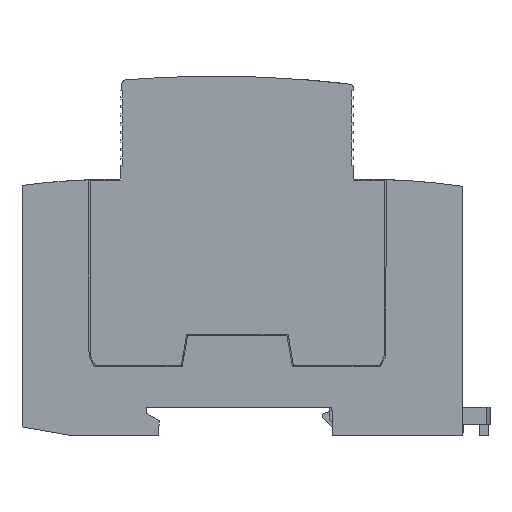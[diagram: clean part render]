
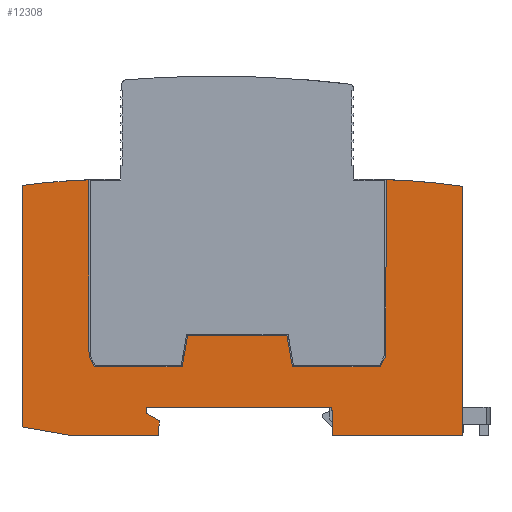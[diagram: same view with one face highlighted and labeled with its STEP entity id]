
A CAD part, left-side view. The second image highlights one B-rep face of the part: STEP entity #12308.
In plain terms, the highlighted planar face has unit normal (-1, 0, 0).
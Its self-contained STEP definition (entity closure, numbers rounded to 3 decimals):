
#26=DIRECTION('',(0.,-0.174,-0.985));
#27=VECTOR('',#26,6.101);
#28=CARTESIAN_POINT('',(0.004,39.063,19.312));
#29=LINE('',#28,#27);
#30=DIRECTION('',(0.,-0.447,0.894));
#31=VECTOR('',#30,2.26);
#32=CARTESIAN_POINT('',(0.004,21.104,13.304));
#33=LINE('',#32,#31);
#34=DIRECTION('',(0.,-0.005,1.));
#35=VECTOR('',#34,33.929);
#36=CARTESIAN_POINT('',(0.004,20.093,15.325));
#37=LINE('',#36,#35);
#38=CARTESIAN_POINT('',(0.004,24.104,-85.796));
#39=DIRECTION('',(1.,0.,0.));
#40=DIRECTION('',(0.,-0.031,1.));
#41=AXIS2_PLACEMENT_3D('',#38,#39,#40);
#43=DIRECTION('',(0.,0.,-1.));
#44=VECTOR('',#43,47.987);
#45=CARTESIAN_POINT('',(0.004,5.204,47.991));
#46=LINE('',#45,#44);
#47=DIRECTION('',(0.,1.,0.));
#48=VECTOR('',#47,25.056);
#49=CARTESIAN_POINT('',(0.004,5.204,0.004));
#50=LINE('',#49,#48);
#51=DIRECTION('',(0.,0.026,1.));
#52=VECTOR('',#51,5.502);
#53=CARTESIAN_POINT('',(0.004,30.26,0.004));
#54=LINE('',#53,#52);
#55=DIRECTION('',(0.,0.026,-1.));
#56=VECTOR('',#55,1.182);
#57=CARTESIAN_POINT('',(0.004,66.104,5.504));
#58=LINE('',#57,#56);
#59=DIRECTION('',(0.,-0.866,-0.5));
#60=VECTOR('',#59,2.889);
#61=CARTESIAN_POINT('',(0.004,66.135,4.322));
#62=LINE('',#61,#60);
#63=DIRECTION('',(0.,0.026,-1.));
#64=VECTOR('',#63,2.875);
#65=CARTESIAN_POINT('',(0.004,63.633,2.878));
#66=LINE('',#65,#64);
#67=DIRECTION('',(0.,0.985,0.174));
#68=VECTOR('',#67,9.79);
#69=CARTESIAN_POINT('',(0.004,80.363,0.004));
#70=LINE('',#69,#68);
#71=DIRECTION('',(0.,0.,1.));
#72=VECTOR('',#71,46.455);
#73=CARTESIAN_POINT('',(0.004,90.004,1.704));
#74=LINE('',#73,#72);
#75=CARTESIAN_POINT('',(0.004,72.404,-85.796));
#76=DIRECTION('',(1.,0.,0.));
#77=DIRECTION('',(0.,0.13,0.991));
#78=AXIS2_PLACEMENT_3D('',#75,#76,#77);
#80=DIRECTION('',(0.,-0.005,-1.));
#81=VECTOR('',#80,33.897);
#82=CARTESIAN_POINT('',(0.004,77.292,49.222));
#83=LINE('',#82,#81);
#84=DIRECTION('',(0.,-0.447,-0.894));
#85=VECTOR('',#84,2.26);
#86=CARTESIAN_POINT('',(0.004,77.115,15.325));
#87=LINE('',#86,#85);
#88=DIRECTION('',(0.,-0.174,0.985));
#89=VECTOR('',#88,6.101);
#90=CARTESIAN_POINT('',(0.004,59.204,13.304));
#91=LINE('',#90,#89);
#92=DIRECTION('',(0.,1.,0.));
#93=VECTOR('',#92,19.081);
#94=CARTESIAN_POINT('',(0.004,39.063,19.312));
#95=LINE('',#94,#93);
#108=DIRECTION('',(0.,1.,0.));
#109=VECTOR('',#108,16.9);
#110=CARTESIAN_POINT('',(0.004,59.204,13.304));
#111=LINE('',#110,#109);
#6063=DIRECTION('',(0.,-1.,0.));
#6064=VECTOR('',#6063,16.655);
#6065=CARTESIAN_POINT('',(0.004,80.363,
0.004));
#6066=LINE('',#6065,#6064);
#6179=DIRECTION('',(0.,-1.,0.));
#6180=VECTOR('',#6179,35.7);
#6181=CARTESIAN_POINT('',(0.004,66.104,5.504));
#6182=LINE('',#6181,#6180);
#7533=DIRECTION('',(0.,1.,0.));
#7534=VECTOR('',#7533,16.9);
#7535=CARTESIAN_POINT('',(0.004,21.104,13.304));
#7536=LINE('',#7535,#7534);
#9286=CARTESIAN_POINT('',(0.004,39.063,19.312));
#9287=CARTESIAN_POINT('',(0.004,58.145,19.312));
#9288=VERTEX_POINT('',#9286);
#9289=VERTEX_POINT('',#9287);
#9290=CARTESIAN_POINT('',(0.004,38.004,13.304));
#9291=VERTEX_POINT('',#9290);
#9292=CARTESIAN_POINT('',(0.004,21.104,13.304));
#9293=VERTEX_POINT('',#9292);
#9294=CARTESIAN_POINT('',(0.004,20.093,15.325));
#9295=VERTEX_POINT('',#9294);
#9296=CARTESIAN_POINT('',(0.004,19.916,49.254));
#9297=VERTEX_POINT('',#9296);
#9298=CARTESIAN_POINT('',(0.004,5.204,47.991));
#9299=VERTEX_POINT('',#9298);
#9300=CARTESIAN_POINT('',(0.004,5.204,
0.004));
#9301=VERTEX_POINT('',#9300);
#9302=CARTESIAN_POINT('',(0.004,30.26,
0.004));
#9303=VERTEX_POINT('',#9302);
#9304=CARTESIAN_POINT('',(0.004,30.404,5.504));
#9305=VERTEX_POINT('',#9304);
#9306=CARTESIAN_POINT('',(0.004,66.104,5.504));
#9307=VERTEX_POINT('',#9306);
#9308=CARTESIAN_POINT('',(0.004,66.135,4.322));
#9309=VERTEX_POINT('',#9308);
#9310=CARTESIAN_POINT('',(0.004,63.633,2.878));
#9311=VERTEX_POINT('',#9310);
#9312=CARTESIAN_POINT('',(0.004,63.708,
0.004));
#9313=VERTEX_POINT('',#9312);
#9314=CARTESIAN_POINT('',(0.004,80.363,
0.004));
#9315=VERTEX_POINT('',#9314);
#9316=CARTESIAN_POINT('',(0.004,90.004,1.704));
#9317=VERTEX_POINT('',#9316);
#9318=CARTESIAN_POINT('',(0.004,90.004,48.159));
#9319=VERTEX_POINT('',#9318);
#9320=CARTESIAN_POINT('',(0.004,77.292,49.222));
#9321=VERTEX_POINT('',#9320);
#9322=CARTESIAN_POINT('',(0.004,77.115,15.325));
#9323=VERTEX_POINT('',#9322);
#9324=CARTESIAN_POINT('',(0.004,76.104,13.304));
#9325=VERTEX_POINT('',#9324);
#9326=CARTESIAN_POINT('',(0.004,59.204,13.304));
#9327=VERTEX_POINT('',#9326);
#12259=CARTESIAN_POINT('',(0.004,47.604,
24.629));
#12260=DIRECTION('',(1.,0.,0.));
#12261=DIRECTION('',(0.,0.,-1.));
#12262=AXIS2_PLACEMENT_3D('',#12259,#12260,#12261);
#12263=PLANE('',#12262);
#12265=ORIENTED_EDGE('',*,*,#12264,.F.);
#12267=ORIENTED_EDGE('',*,*,#12266,.T.);
#12269=ORIENTED_EDGE('',*,*,#12268,.F.);
#12271=ORIENTED_EDGE('',*,*,#12270,.T.);
#12273=ORIENTED_EDGE('',*,*,#12272,.T.);
#12275=ORIENTED_EDGE('',*,*,#12274,.T.);
#12277=ORIENTED_EDGE('',*,*,#12276,.T.);
#12279=ORIENTED_EDGE('',*,*,#12278,.T.);
#12281=ORIENTED_EDGE('',*,*,#12280,.T.);
#12283=ORIENTED_EDGE('',*,*,#12282,.F.);
#12285=ORIENTED_EDGE('',*,*,#12284,.T.);
#12287=ORIENTED_EDGE('',*,*,#12286,.T.);
#12289=ORIENTED_EDGE('',*,*,#12288,.T.);
#12291=ORIENTED_EDGE('',*,*,#12290,.F.);
#12293=ORIENTED_EDGE('',*,*,#12292,.T.);
#12295=ORIENTED_EDGE('',*,*,#12294,.T.);
#12297=ORIENTED_EDGE('',*,*,#12296,.T.);
#12299=ORIENTED_EDGE('',*,*,#12298,.T.);
#12301=ORIENTED_EDGE('',*,*,#12300,.T.);
#12303=ORIENTED_EDGE('',*,*,#12302,.F.);
#12305=ORIENTED_EDGE('',*,*,#12304,.T.);
#12306=EDGE_LOOP('',(#12265,#12267,#12269,#12271,#12273,#12275,#12277,#12279,
#12281,#12283,#12285,#12287,#12289,#12291,#12293,#12295,#12297,#12299,#12301,
#12303,#12305));
#12307=FACE_OUTER_BOUND('',#12306,.F.);
#42=CIRCLE('',#41,135.115);
#79=CIRCLE('',#78,135.106);
#12264=EDGE_CURVE('',#9288,#9289,#95,.T.);
#12266=EDGE_CURVE('',#9288,#9291,#29,.T.);
#12268=EDGE_CURVE('',#9293,#9291,#7536,.T.);
#12270=EDGE_CURVE('',#9293,#9295,#33,.T.);
#12272=EDGE_CURVE('',#9295,#9297,#37,.T.);
#12274=EDGE_CURVE('',#9297,#9299,#42,.T.);
#12276=EDGE_CURVE('',#9299,#9301,#46,.T.);
#12278=EDGE_CURVE('',#9301,#9303,#50,.T.);
#12280=EDGE_CURVE('',#9303,#9305,#54,.T.);
#12282=EDGE_CURVE('',#9307,#9305,#6182,.T.);
#12284=EDGE_CURVE('',#9307,#9309,#58,.T.);
#12286=EDGE_CURVE('',#9309,#9311,#62,.T.);
#12288=EDGE_CURVE('',#9311,#9313,#66,.T.);
#12290=EDGE_CURVE('',#9315,#9313,#6066,.T.);
#12292=EDGE_CURVE('',#9315,#9317,#70,.T.);
#12294=EDGE_CURVE('',#9317,#9319,#74,.T.);
#12296=EDGE_CURVE('',#9319,#9321,#79,.T.);
#12298=EDGE_CURVE('',#9321,#9323,#83,.T.);
#12300=EDGE_CURVE('',#9323,#9325,#87,.T.);
#12302=EDGE_CURVE('',#9327,#9325,#111,.T.);
#12304=EDGE_CURVE('',#9327,#9289,#91,.T.);
#12308=ADVANCED_FACE('',(#12307),#12263,.F.);
